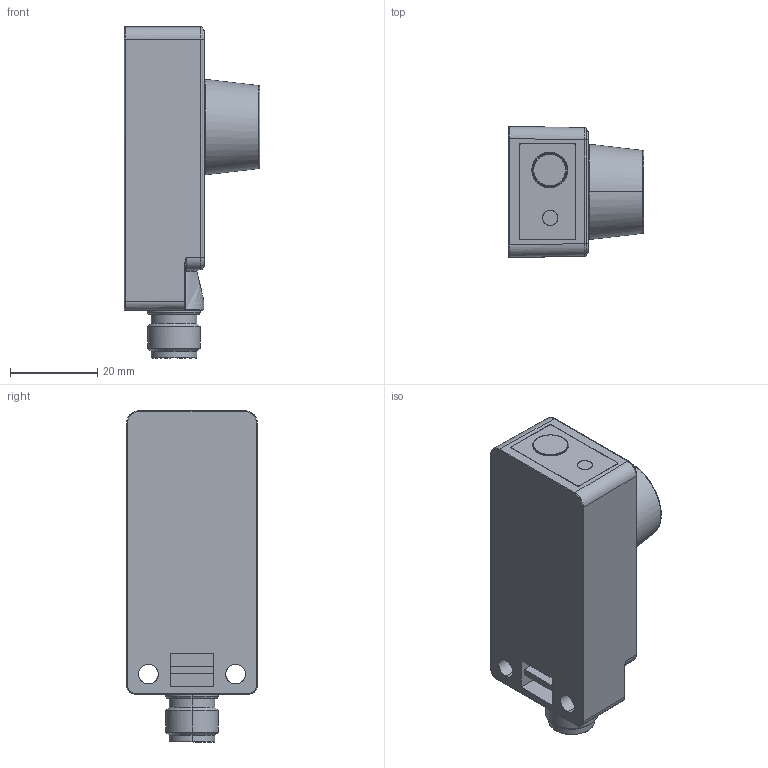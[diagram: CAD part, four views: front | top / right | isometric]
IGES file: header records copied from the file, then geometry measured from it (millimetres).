
Start section: Comment
Global section: file name: UxDK_30_Button_S14.igs; native system:  By Spatial Corp.; preprocessor: XPlus GENERIC/IGES 3.0; author: Author; organization: Title; date: 20060329.074635; units: inch
Bounding box: 31.1 x 30.02 x 76.2 mm (x, y, z)
Surface area: 9252.5 mm2 (no closed solid volume)
Topology: 0 solids, 0 shells, 182 faces, 852 edges, 846 vertices
Faces by surface type: bspline 182
